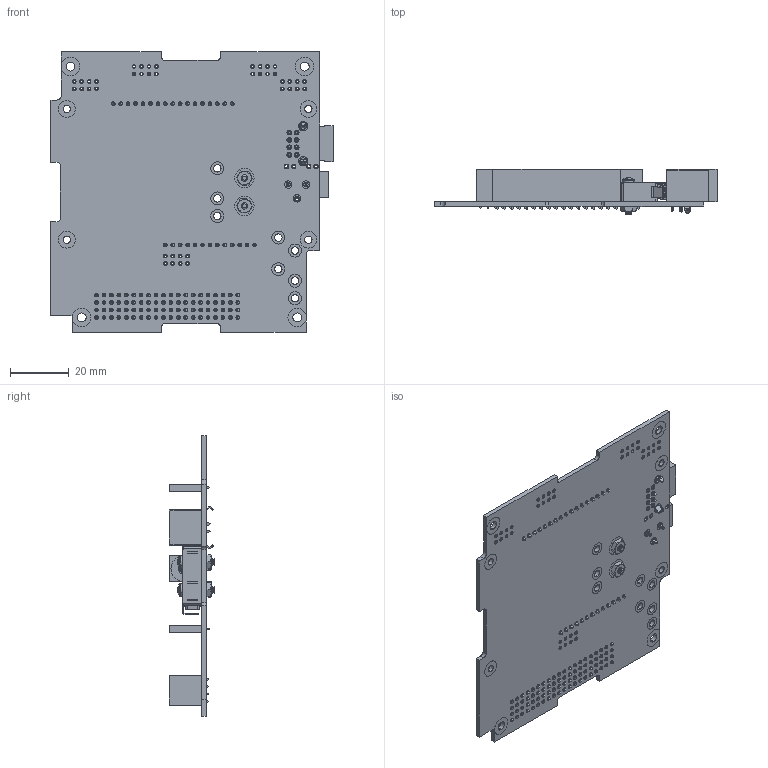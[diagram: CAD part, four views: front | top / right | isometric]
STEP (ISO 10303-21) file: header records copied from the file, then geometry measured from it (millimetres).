
FILE_DESCRIPTION (( 'STEP AP214' ), '1' );
FILE_NAME ('711-00320 Motherboard Mockup Rev A Opt 01.STEP', '2017-01-20T02:09:10', ( '' ), ( '' ), 'SwSTEP 2.0', 'SolidWorks 2014', '' );
FILE_SCHEMA (( 'AUTOMOTIVE_DESIGN' ));
Length unit declared in the file: inch
Products named in the file (2): 711-00320 Motherboard Mockup Rev A Opt 01
Bounding box: 96.48 x 15.49 x 95.89 mm (x, y, z)
Volume: 24563.2 mm3; surface area: 29525.2 mm2
Topology: 1 solids, 11 shells, 4112 faces, 9326 edges, 5815 vertices
Faces by surface type: plane 2655, cylinder 1225, cone 212, torus 12, sphere 6, bspline 2
Entity records: 117828 total; most frequent: DIRECTION 20216, CARTESIAN_POINT 19723, ORIENTED_EDGE 18644, EDGE_CURVE 9322, AXIS2_PLACEMENT_3D 6844, LINE 6528, VECTOR 6528, VERTEX_POINT 5813
